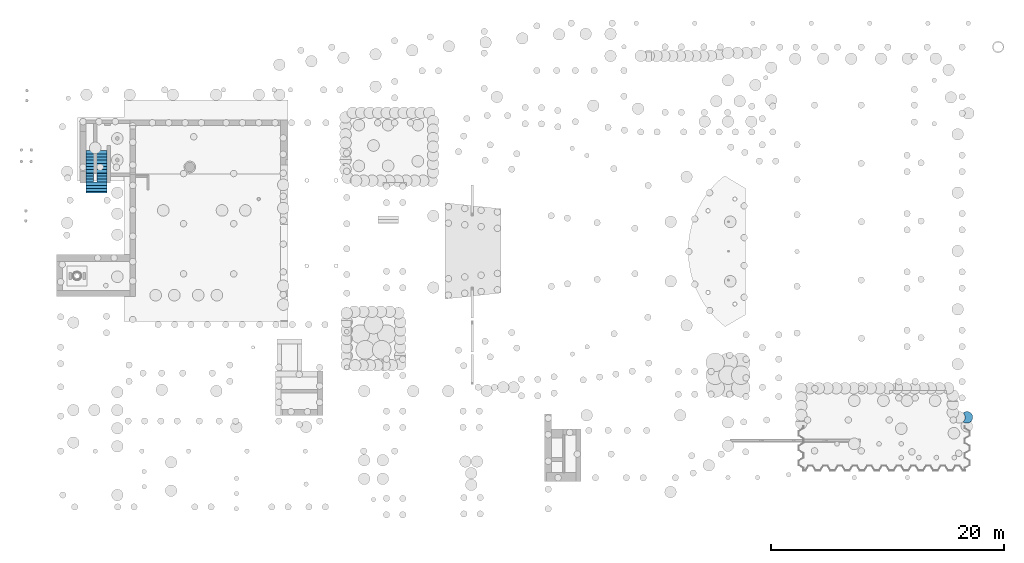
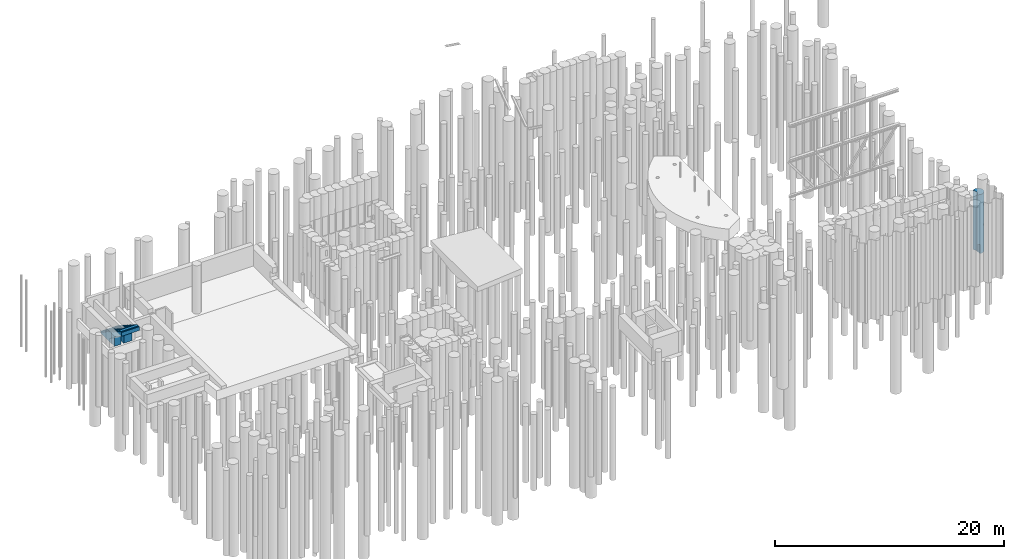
# One storey, part 102 of 104: 2 beams, 1 pile.
"""IFC2X3 building model written with IfcOpenShell, lengths in millimetres."""

from ifc_helpers import new_model, entity, si_unit, converted_unit, derived_unit, direction, frame, origin, place, context, subcontext, project, spatial, faceted_brep, source, transform, mapped, material, type_object, element, save


model = new_model("IFC2X3")

# Units and contexts
model_context = context("Model", 3, precision=0.01, world=origin(), true_north=direction((6.12303176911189e-17, 1.0)))
body_context = subcontext(model_context, "Body", "Model", "MODEL_VIEW")
ifc_project = project(units=[si_unit("LENGTHUNIT", "METRE", prefix="MILLI"), si_unit("AREAUNIT", "SQUARE_METRE", prefix="MILLI"), si_unit("VOLUMEUNIT", "CUBIC_METRE"), converted_unit("PLANEANGLEUNIT", "DEGREE", entity("IfcRatioMeasure", 0.0174532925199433), si_unit("PLANEANGLEUNIT", "RADIAN"), dimensions=[0, 0, 0, 0, 0, 0, 0]), si_unit("MASSUNIT", "GRAM", prefix="KILO"), derived_unit("MASSDENSITYUNIT", [(si_unit("MASSUNIT", "GRAM", prefix="KILO"), 1), (si_unit("LENGTHUNIT", "METRE"), -3)]), derived_unit("MOMENTOFINERTIAUNIT", [(si_unit("LENGTHUNIT", "METRE"), 4)]), si_unit("TIMEUNIT", "SECOND"), si_unit("FREQUENCYUNIT", "HERTZ"), si_unit("THERMODYNAMICTEMPERATUREUNIT", "DEGREE_CELSIUS"), derived_unit("THERMALTRANSMITTANCEUNIT", [(si_unit("MASSUNIT", "GRAM", prefix="KILO"), 1), (si_unit("THERMODYNAMICTEMPERATUREUNIT", "KELVIN"), -1), (si_unit("TIMEUNIT", "SECOND"), -3)]), derived_unit("VOLUMETRICFLOWRATEUNIT", [(si_unit("LENGTHUNIT", "METRE"), 3), (si_unit("TIMEUNIT", "SECOND"), -1)]), si_unit("ELECTRICCURRENTUNIT", "AMPERE"), si_unit("ELECTRICVOLTAGEUNIT", "VOLT"), si_unit("POWERUNIT", "WATT"), si_unit("FORCEUNIT", "NEWTON", prefix="KILO"), si_unit("ILLUMINANCEUNIT", "LUX"), si_unit("LUMINOUSFLUXUNIT", "LUMEN"), si_unit("LUMINOUSINTENSITYUNIT", "CANDELA"), derived_unit("USERDEFINED", [(si_unit("MASSUNIT", "GRAM", prefix="KILO"), -1), (si_unit("LENGTHUNIT", "METRE"), -2), (si_unit("TIMEUNIT", "SECOND"), 3), (si_unit("LUMINOUSFLUXUNIT", "LUMEN"), 1)]), derived_unit("LINEARVELOCITYUNIT", [(si_unit("LENGTHUNIT", "METRE"), 1), (si_unit("TIMEUNIT", "SECOND"), -1)]), si_unit("PRESSUREUNIT", "PASCAL"), derived_unit("USERDEFINED", [(si_unit("LENGTHUNIT", "METRE"), -2), (si_unit("MASSUNIT", "GRAM", prefix="KILO"), 1), (si_unit("TIMEUNIT", "SECOND"), -2)]), derived_unit("LINEARFORCEUNIT", [(si_unit("MASSUNIT", "GRAM", prefix="KILO"), 1), (si_unit("LENGTHUNIT", "METRE"), 1), (si_unit("TIMEUNIT", "SECOND"), -2), (si_unit("LENGTHUNIT", "METRE"), -1)]), derived_unit("PLANARFORCEUNIT", [(si_unit("MASSUNIT", "GRAM", prefix="KILO"), 1), (si_unit("LENGTHUNIT", "METRE"), 1), (si_unit("TIMEUNIT", "SECOND"), -2), (si_unit("LENGTHUNIT", "METRE"), -2)])], contexts=[model_context])

# Site, building, storey
site_placement = place(None, origin())
site = spatial("IfcSite", under=ifc_project, at=site_placement, Name="Theater aan de Parade", CompositionType="ELEMENT")
building_placement = place(site_placement, origin())
building = spatial("IfcBuilding", under=site, at=building_placement, Name="Theater aan de Parade", CompositionType="ELEMENT")
storey_placement = place(building_placement, frame((0.0, 0.0, -5520.0)))
storey = spatial("IfcBuildingStorey", under=building, at=storey_placement, Name="-2 kelder", CompositionType="ELEMENT", Elevation=-5520.0)

# Pile
ifc_material_1 = material(Name="00_PBT_MAT_grout")
shared_shape = source(origin(), body_context, "Body", "Brep", [
    faceted_brep([(156.039495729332, 643.472556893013, 0.0), (130.742825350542, 710.745926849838, 0.0), (96.0623260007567, 773.697422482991, 0.0), (52.7145838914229, 831.026307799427, 0.0), (1.5952722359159, 881.548024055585, 0.0), (62.8268818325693, 926.347016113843, 0.0), (130.132186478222, 961.365930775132, 0.0), (201.961260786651, 985.798188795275, 0.0), (276.660302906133, 999.081170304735, 0.0), (352.509414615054, 1000.90892586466, 0.0), (427.762187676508, 991.239224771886, 0.0), (500.685901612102, 970.294535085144, 0.0), (569.601408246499, 938.556912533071, 0.0), (632.921785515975, 896.756915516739, 0.0), (689.188871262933, 845.856800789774, 0.0), (737.106836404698, 787.028385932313, 0.0), (775.572024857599, 721.626087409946, 0.0), (803.698373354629, 651.155754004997, 0.0), (820.837748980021, 577.240514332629, 0.0), (826.595272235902, 501.580920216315, 0.0), (821.607228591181, 431.131200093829, 0.0), (806.744238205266, 362.092675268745, 0.0), (782.303283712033, 295.837856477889, 0.0), (748.772980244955, 233.689183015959, 0.0), (706.822916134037, 176.885772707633, 0.0), (657.278879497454, 126.554129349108, 0.0), (605.052831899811, 86.296213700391, 0.0), (547.973144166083, 53.2597877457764, 0.0), (487.043140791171, 28.0236570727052, 0.0), (423.321066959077, 11.0260092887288, 0.0), (357.913470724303, 2.56271369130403, 0.0), (291.960284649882, 2.78194504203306, 0.0), (226.595272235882, 11.6829716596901, 0.0), (226.595272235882, 386.409980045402, 0.0), (164.640094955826, 392.896740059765, 0.0), (173.594521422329, 446.884061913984, 0.0), (176.595272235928, 501.580920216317, 0.0), (171.429644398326, 573.267349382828, 0.0), (733.978275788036, 791.47588122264, 5321.88978165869), (714.265354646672, 817.352842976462, 4368.29536745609), (662.02221502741, 872.375696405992, 5250.57625182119), (826.595272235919, 501.580920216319, 6320.0), (826.595272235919, 501.580920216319, 4758.46227727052), (818.077818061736, 593.477096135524, 5159.72775007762), (714.265355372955, 817.352842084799, 1328.94772264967), (602.055613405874, 918.859724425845, 781.727377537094), (790.973879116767, 686.925220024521, 1328.94875546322), (362.985396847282, 1000.25492077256, 949.035976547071), (464.621895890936, 982.152092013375, 1032.1812764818), (114.435077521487, 954.33698232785, 3158.85548772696), (241.903788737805, 994.356074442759, 3029.35857653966), (165.582631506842, 974.946455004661, 2029.29597111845), (1.5952722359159, 881.548024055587, 1561.53817547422), (130.597395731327, 961.564433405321, 1043.84404677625), (689.188871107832, 845.856800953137, 6320.0), (737.106836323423, 787.02838604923, 6320.0), (504.145318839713, 968.995063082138, 2060.84563424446), (602.055612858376, 918.859724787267, 1637.7900695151), (685.98407925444, 849.200950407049, 3161.97757830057), (627.116908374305, 901.189161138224, 4204.38249285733), (569.601407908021, 938.556912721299, 6320.0), (632.921785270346, 896.756915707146, 6320.0), (130.132186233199, 961.365930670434, 6320.0), (201.961260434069, 985.798188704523, 6320.0), (165.582631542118, 974.946455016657, 4787.85921591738), (818.819460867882, 589.417974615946, 987.413339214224), (811.801872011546, 622.306044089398, 2494.59229240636), (826.595272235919, 501.580920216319, 1561.53772272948), (816.765458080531, 600.237845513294, 4222.60402828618), (816.423031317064, 601.924163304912, 3347.99838588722), (790.083849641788, 689.139813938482, 3597.85767238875), (83.4675496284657, 938.48927502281, 5346.72127604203), (1.5952722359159, 881.548024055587, 6320.0), (62.8268817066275, 926.347016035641, 6320.0), (375.79929865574, 999.153994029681, 3035.54785385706), (314.55013919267, 1001.43581393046, 4065.79783276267), (440.830649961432, 988.356308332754, 4041.30634709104), (615.867697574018, 909.40620626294, 2629.36155347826), (803.698373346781, 651.155754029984, 6320.0), (790.973878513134, 686.925221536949, 4876.27850064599), (775.572024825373, 721.626087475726, 6320.0), (535.746525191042, 955.734807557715, 4759.26326095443), (239.058470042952, 993.858594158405, 1104.63358147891), (757.581821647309, 755.057929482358, 2512.52163290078), (700.141824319, 833.940625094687, 2244.51098281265), (500.685901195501, 970.294535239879, 6320.0), (390.31947860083, 997.503520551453, 5111.8901709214), (427.762187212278, 991.239224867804, 6320.0), (1.5952722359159, 881.548024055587, 780.768482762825), (1.5952722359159, 881.548024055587, 4758.46182452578), (79.8177041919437, 936.43817485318, 4349.61557229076), (1.5952722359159, 881.548024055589, 3940.76674679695), (276.660302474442, 999.081170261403, 6320.0), (274.708432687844, 998.881388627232, 5066.37486074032), (154.496165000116, 971.029423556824, 3928.09796030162), (352.509414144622, 1000.90892588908, 6320.0), (820.837748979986, 577.24051433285, 6320.0), (79.5414317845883, 936.281276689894, 1779.68662215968), (1.5952722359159, 881.548024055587, 3123.07635094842), (272.26221545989, 998.620072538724, 2062.9280462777), (390.319478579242, 997.503520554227, 1868.94547345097), (745.494233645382, 774.571140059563, 3397.03746860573), (535.746524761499, 955.734807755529, 3160.0), (826.595272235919, 501.580920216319, 3196.92455454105), (1.5952722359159, 881.548024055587, 5539.23151723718), (826.595272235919, 501.580920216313, 3940.76885296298), (826.595272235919, 501.580920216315, 3123.07541185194), (826.595272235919, 501.580920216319, 2379.23113863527), (826.595272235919, 501.580920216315, 2342.30655888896), (264.109004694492, 5.50081945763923, 2170.58000472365), (135.949554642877, 39.3534758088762, 2162.86006177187), (226.595272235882, 11.6829716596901, 1000.0), (52.1535872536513, 83.6314477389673, 1000.0), (1.5952722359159, 121.613816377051, 2561.53770734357), (1.5952722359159, 121.613816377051, 1000.0), (165.560571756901, 28.2228895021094, 1000.0), (603.331068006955, 85.1468926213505, 5302.13115563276), (505.132425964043, 34.54292953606, 5252.60487059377), (569.878928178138, 64.7593745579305, 4349.55194482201), (294.649115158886, 2.60252083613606, 5290.30096014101), (399.677359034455, 6.95074666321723, 5350.60642547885), (330.383650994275, 1.5952722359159, 6320.0), (818.901991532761, 414.207616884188, 4477.97238112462), (818.603047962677, 412.539645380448, 5332.17323977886), (795.695103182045, 328.533676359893, 4728.86574441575), (486.404881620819, 27.8078851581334, 1189.40214380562), (577.058275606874, 68.835863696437, 1035.26793209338), (390.756965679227, 5.7147315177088, 1404.46766360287), (59.0810797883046, 79.163878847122, 6320.0), (1.5952722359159, 121.613816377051, 6320.0), (1.5952722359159, 121.613816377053, 5539.2311463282), (534.158752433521, 46.6991754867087, 1989.18109727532), (631.841153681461, 105.569617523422, 1927.38126748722), (761.588127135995, 255.042452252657, 5366.34173193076), (806.744109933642, 362.092233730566, 6320.0), (782.303867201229, 295.839148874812, 6320.0), (471.000397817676, 22.8877411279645, 4320.82081372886), (662.279700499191, 131.019232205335, 1027.23310858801), (728.801990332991, 204.545979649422, 1359.54955543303), (107.101655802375, 52.3342704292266, 1000.0), (86.1225241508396, 63.2056729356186, 5410.14418044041), (70.8155848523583, 71.9569549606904, 4538.19278078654), (155.149914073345, 31.8932695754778, 4758.15091330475), (254.238548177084, 6.84411697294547, 4323.68426699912), (366.098350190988, 3.1438561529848, 4432.13717283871), (189.149619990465, 20.8432654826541, 6320.0), (122.026693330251, 45.3444721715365, 6320.0), (455.462658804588, 18.473068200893, 2707.04232699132), (590.949035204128, 77.1788844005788, 3105.66659180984), (657.189174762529, 126.470707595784, 3885.15908095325), (669.721786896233, 137.899473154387, 2973.48119293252), (195.816180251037, 18.9870649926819, 3211.04271846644), (401.611119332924, 7.24032641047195, 6320.0), (471.306182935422, 22.980092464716, 6320.0), (80.9971688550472, 66.0564414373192, 3386.65879960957), (781.283696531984, 293.59429369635, 997.835971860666), (815.39613720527, 396.349202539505, 1048.56710681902), (682.954485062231, 150.855797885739, 4925.82980763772), (746.379743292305, 229.95434224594, 4423.405187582), (795.69493738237, 328.53322690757, 1933.53305988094), (797.063672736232, 332.289797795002, 3393.8299185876), (600.468215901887, 83.2585436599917, 6320.0), (657.302677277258, 126.570770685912, 6320.0), (729.60989798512, 205.64306959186, 2380.90650031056), (328.216594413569, 1.5835489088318, 3251.09562179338), (728.805395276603, 204.550590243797, 3402.26408938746), (259.077884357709, 6.16049034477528, 6320.0), (538.046048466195, 48.4931039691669, 6320.0), (821.606945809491, 431.129213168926, 6320.0), (706.827664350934, 176.891333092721, 6320.0), (748.775204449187, 233.692688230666, 6320.0), (819.679816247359, 418.709740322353, 1951.92213225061), (364.672505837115, 3.03290419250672, 2309.11850851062), (420.640854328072, 10.5051333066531, 3550.95353316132), (514.180858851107, 38.1031454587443, 3527.68617057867), (1.5952722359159, 121.613816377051, 4123.07541468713), (52.7145838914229, 831.026307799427, 6320.0), (96.0623260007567, 773.697422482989, 6320.0), (130.742825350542, 710.745926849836, 6320.0), (156.03949572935, 643.472556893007, 6320.0), (171.429644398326, 573.267349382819, 6320.0), (176.595272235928, 501.580920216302, 6320.0), (171.429644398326, 429.894491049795, 6320.0), (156.039495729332, 359.689283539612, 6320.0), (130.742825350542, 292.415913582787, 6320.0), (96.0623260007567, 229.464417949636, 6320.0), (52.7145838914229, 172.135532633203, 6320.0), (61.3312055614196, 820.921274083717, 1171.15327843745), (114.535156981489, 742.845624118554, 1073.30167186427), (163.748921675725, 614.192295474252, 3414.93870649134), (125.571563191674, 721.627029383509, 3146.38498575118), (144.601498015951, 677.564364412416, 1981.21457974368), (156.990671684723, 640.218073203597, 1023.36917436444), (157.492352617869, 638.46772776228, 5280.70692250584), (114.535156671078, 742.845624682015, 5234.20447250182), (144.601497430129, 677.564365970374, 4311.55539985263), (81.2852326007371, 795.223621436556, 2183.14983071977), (176.595272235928, 501.58092021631, 4721.53772293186), (176.595272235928, 501.580920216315, 1561.53772293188), (176.595272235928, 501.58092021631, 4758.46229405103), (176.595272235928, 501.580920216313, 5539.23114702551), (61.2830596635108, 820.97927056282, 5148.84671475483), (176.595272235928, 501.580920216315, 2342.30658439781), (176.595272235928, 501.58092021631, 3123.07544586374), (80.9860879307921, 795.63545288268, 4124.11319011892), (168.365873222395, 591.922914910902, 4550.73055914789), (71.7798184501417, 807.896402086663, 3108.33119845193), (169.399890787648, 586.100787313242, 1951.92213097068), (176.595272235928, 501.580920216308, 1580.0), (176.595272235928, 501.58092021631, 3160.0), (95.0654442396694, 227.933857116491, 3809.85877705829), (61.1704466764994, 182.046985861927, 4523.91489147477), (114.535157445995, 260.316217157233, 4624.93892453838), (47.7140962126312, 166.512541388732, 1000.0), (156.63265228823, 361.709144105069, 2014.73185022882), (146.634426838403, 331.101616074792, 1000.0), (120.839567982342, 272.131566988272, 1000.0), (105.149909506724, 244.013603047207, 2014.73185030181), (75.419878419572, 200.020091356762, 5375.81494111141), (144.60149860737, 325.597477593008, 5375.81494119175), (87.6829744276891, 216.963807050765, 1000.0), (75.6783931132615, 200.362290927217, 2979.79847285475), (161.514451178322, 379.70643603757, 4250.66175212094), (164.640094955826, 392.896740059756, 1000.0), (169.115171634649, 415.41742042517, 5148.84672054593), (134.686882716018, 301.201089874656, 2890.50480247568), (166.385687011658, 401.055552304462, 2904.38346815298), (226.595272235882, 386.409980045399, 1000.0)], [[[0, 1, 2, 3, 4, 5, 6, 7, 8, 9, 10, 11, 12, 13, 14, 15, 16, 17, 18, 19, 20, 21, 22, 23, 24, 25, 26, 27, 28, 29, 30, 31, 32, 33, 34, 35, 36, 37]], [[38, 39, 40]], [[41, 42, 43]], [[15, 44, 16]], [[45, 44, 14]], [[16, 44, 46]], [[47, 10, 9]], [[48, 45, 11]], [[49, 50, 51]], [[12, 45, 13]], [[52, 53, 5]], [[38, 54, 55]], [[48, 56, 57]], [[39, 58, 59]], [[60, 61, 40]], [[62, 63, 64]], [[65, 66, 67]], [[38, 40, 54]], [[68, 69, 70]], [[17, 46, 65]], [[71, 72, 73]], [[74, 75, 76]], [[42, 68, 43]], [[77, 59, 58]], [[48, 11, 10]], [[78, 79, 80]], [[81, 40, 59]], [[38, 80, 79]], [[70, 39, 79]], [[61, 54, 40]], [[74, 50, 75]], [[53, 82, 7]], [[83, 84, 58]], [[47, 48, 10]], [[47, 8, 82]], [[44, 15, 14]], [[85, 86, 87]], [[51, 82, 53]], [[66, 70, 69]], [[5, 4, 88, 52]], [[17, 65, 18]], [[8, 7, 82]], [[66, 46, 83]], [[45, 14, 13]], [[89, 90, 91]], [[92, 93, 63]], [[75, 64, 93]], [[19, 18, 65]], [[81, 86, 85]], [[7, 6, 53]], [[16, 46, 17]], [[50, 94, 75]], [[87, 86, 95]], [[43, 78, 96]], [[86, 93, 95]], [[75, 93, 86]], [[64, 90, 71]], [[71, 62, 64]], [[86, 76, 75]], [[97, 98, 49]], [[85, 60, 81]], [[76, 86, 81]], [[83, 46, 44]], [[99, 51, 50]], [[47, 100, 48]], [[59, 40, 39]], [[60, 40, 81]], [[56, 48, 100]], [[48, 57, 45]], [[45, 12, 11]], [[44, 45, 57]], [[70, 83, 101]], [[102, 81, 59]], [[84, 83, 44]], [[77, 57, 56]], [[74, 56, 100]], [[77, 56, 102]], [[70, 66, 83]], [[69, 103, 66]], [[83, 58, 101]], [[70, 79, 68]], [[81, 102, 76]], [[102, 56, 74]], [[102, 74, 76]], [[82, 51, 99]], [[99, 74, 100]], [[49, 51, 97]], [[71, 89, 104, 72]], [[94, 49, 90]], [[5, 53, 6]], [[97, 51, 53]], [[80, 38, 55]], [[79, 39, 38]], [[8, 47, 9]], [[99, 47, 82]], [[74, 99, 50]], [[47, 99, 100]], [[53, 52, 97]], [[97, 52, 98]], [[63, 93, 64]], [[95, 93, 92]], [[43, 68, 79]], [[68, 42, 105, 103]], [[78, 43, 79]], [[41, 43, 96]], [[68, 103, 69]], [[66, 103, 106, 107, 108, 67]], [[49, 98, 91]], [[94, 90, 64]], [[49, 91, 90]], [[89, 71, 90]], [[62, 71, 73]], [[75, 94, 64]], [[50, 49, 94]], [[66, 65, 46]], [[19, 65, 67]], [[44, 57, 84]], [[77, 84, 57]], [[59, 77, 102]], [[84, 77, 58]], [[58, 39, 101]], [[39, 70, 101]], [[109, 110, 111]], [[112, 113, 114]], [[111, 110, 115]], [[116, 117, 118]], [[119, 120, 121]], [[122, 123, 124]], [[125, 27, 126]], [[112, 110, 113]], [[30, 127, 31]], [[128, 129, 130]], [[126, 131, 125]], [[29, 28, 125]], [[31, 111, 32]], [[131, 126, 132]], [[133, 134, 135]], [[127, 30, 29]], [[26, 126, 27]], [[117, 120, 136]], [[132, 137, 138]], [[112, 139, 110]], [[130, 140, 128]], [[134, 133, 123]], [[117, 136, 118]], [[140, 141, 142]], [[143, 144, 119]], [[145, 146, 140]], [[147, 131, 148]], [[131, 127, 125]], [[119, 144, 120]], [[149, 148, 150]], [[119, 145, 142]], [[151, 110, 109]], [[121, 120, 152]], [[120, 153, 152]], [[24, 23, 138]], [[148, 149, 118]], [[138, 137, 24]], [[154, 110, 151]], [[155, 21, 156]], [[157, 149, 158]], [[155, 156, 159]], [[160, 122, 124]], [[161, 116, 162]], [[155, 23, 22]], [[31, 127, 111]], [[163, 150, 132]], [[22, 21, 155]], [[143, 164, 144]], [[150, 163, 165]], [[123, 122, 42]], [[119, 121, 166]], [[153, 117, 167]], [[67, 156, 19]], [[117, 116, 167]], [[116, 161, 167]], [[164, 151, 109]], [[139, 115, 110]], [[126, 137, 132]], [[41, 168, 123]], [[158, 133, 157]], [[142, 141, 154]], [[146, 128, 140]], [[20, 156, 21]], [[151, 142, 154]], [[133, 169, 157]], [[160, 158, 165]], [[133, 135, 170]], [[26, 25, 137]], [[106, 160, 171]], [[157, 169, 162]], [[145, 119, 166]], [[143, 119, 142]], [[19, 156, 20]], [[156, 67, 171]], [[111, 127, 109]], [[172, 109, 127]], [[172, 164, 109]], [[173, 164, 147]], [[148, 131, 132]], [[127, 131, 147]], [[149, 150, 165]], [[118, 136, 174]], [[142, 151, 143]], [[164, 143, 151]], [[141, 130, 175]], [[140, 142, 145]], [[130, 141, 140]], [[141, 175, 154]], [[175, 113, 154]], [[110, 154, 113]], [[118, 157, 116]], [[162, 116, 157]], [[159, 138, 155]], [[23, 155, 138]], [[26, 137, 126]], [[24, 137, 25]], [[136, 120, 144]], [[153, 120, 117]], [[173, 144, 164]], [[136, 173, 174]], [[29, 125, 127]], [[27, 125, 28]], [[158, 149, 165]], [[157, 118, 149]], [[148, 132, 150]], [[163, 132, 138]], [[138, 159, 163]], [[160, 163, 159]], [[41, 123, 42]], [[134, 123, 168]], [[158, 160, 124]], [[160, 105, 122]], [[163, 160, 165]], [[171, 67, 108, 107, 106]], [[160, 106, 103, 105]], [[105, 42, 122]], [[133, 158, 124]], [[124, 123, 133]], [[133, 170, 169]], [[160, 159, 171]], [[156, 171, 159]], [[127, 147, 172]], [[164, 172, 147]], [[174, 147, 148]], [[144, 173, 136]], [[147, 174, 173]], [[118, 174, 148]], [[85, 87, 95, 92, 63, 62, 73, 72, 176, 177, 178, 179, 180, 181, 182, 183, 184, 185, 186, 129, 128, 146, 145, 166, 121, 152, 153, 167, 161, 162, 169, 170, 135, 134, 168, 41, 96, 78, 80, 55, 54, 61, 60]], [[3, 2, 187]], [[2, 1, 188]], [[189, 190, 191]], [[1, 192, 188]], [[193, 194, 195]], [[192, 1, 0]], [[192, 191, 188]], [[196, 188, 191]], [[197, 180, 193]], [[196, 191, 190]], [[88, 3, 187]], [[198, 37, 36]], [[180, 197, 199, 200, 181]], [[89, 201, 104]], [[202, 203, 189]], [[177, 194, 178]], [[201, 177, 176]], [[192, 0, 37]], [[188, 196, 187]], [[193, 178, 194]], [[178, 193, 179]], [[104, 176, 72]], [[88, 4, 3]], [[195, 194, 204]], [[194, 177, 201]], [[189, 203, 205]], [[196, 98, 52]], [[206, 190, 204]], [[190, 195, 204]], [[204, 91, 206]], [[206, 196, 190]], [[195, 190, 189]], [[179, 193, 180]], [[193, 195, 205]], [[207, 191, 192]], [[198, 192, 37]], [[205, 195, 189]], [[207, 198, 208, 202]], [[189, 207, 202]], [[198, 207, 192]], [[191, 207, 189]], [[205, 197, 193]], [[205, 203, 209, 197]], [[52, 88, 187]], [[52, 187, 196]], [[2, 188, 187]], [[89, 204, 201]], [[104, 201, 176]], [[194, 201, 204]], [[206, 98, 196]], [[204, 89, 91]], [[91, 98, 206]], [[210, 211, 212]], [[113, 213, 114]], [[214, 215, 216, 217]], [[212, 218, 219]], [[217, 216, 220]], [[184, 183, 219]], [[217, 220, 213]], [[221, 217, 113]], [[182, 181, 200]], [[219, 218, 185, 184]], [[222, 199, 197, 209]], [[214, 223, 215]], [[219, 183, 224]], [[35, 34, 223]], [[214, 225, 226]], [[223, 36, 35]], [[113, 217, 213]], [[130, 129, 186]], [[211, 218, 212]], [[214, 217, 225]], [[226, 209, 203, 202, 208]], [[185, 218, 186]], [[224, 200, 199]], [[214, 208, 223]], [[225, 217, 221]], [[223, 208, 198, 36]], [[212, 219, 222]], [[224, 183, 182]], [[218, 130, 186]], [[175, 130, 211]], [[212, 222, 210]], [[226, 225, 222]], [[210, 222, 225]], [[221, 113, 175]], [[214, 226, 208]], [[209, 226, 222]], [[218, 211, 130]], [[221, 175, 210]], [[211, 210, 175]], [[221, 210, 225]], [[199, 222, 224]], [[200, 224, 182]], [[219, 224, 222]], [[111, 115, 139, 112, 114, 213, 220, 216, 215, 223, 227]], [[227, 223, 34, 33]], [[227, 33, 32, 111]]]),
])
pile_placement = place(storey_placement, frame((87673.4047277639, 17702.3950989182, -3840.0)))
element("IfcPile", 1, at=pile_placement, inside=storey, material=ifc_material_1, Name="17_PBT_SFO_grondkering_rond:Ø1000 (grondkering)", ObjectType="17_PBT_SFO_grondkering_rond:Ø1000 (grondkering)", PredefinedType="NOTDEFINED", context=body_context, shape_type="MappedRepresentation", body=[
    mapped(shared_shape, transform((0.0, 0.0, 0.0), scale=1.0)),
])

# Beams
ifc_material_2 = material(Name="00_PBT_MAT_beton t.p.g.")
beam_type_1 = type_object("IfcBeamType", Name="28_PBT_SF_betontrap kelder A_B_15_behouden:betontrap_bestaand", PredefinedType="NOTDEFINED")
beam_1_placement = place(storey_placement, frame((12510.0, 37416.6178623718, -40.0)))
element("IfcBeam", 2, at=beam_1_placement, inside=storey, type_object=beam_type_1, material=ifc_material_2, Name="28_PBT_SF_betontrap kelder A_B_15_behouden:betontrap_bestaand", ObjectType="28_PBT_SF_betontrap kelder A_B_15_behouden:betontrap_bestaand", context=body_context, shape_type="Brep", body=[
    faceted_brep([(0.0, 353.382137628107, 2069.25000000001), (0.0, 668.382137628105, 2069.25000000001), (0.0, 623.382137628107, 1898.50000000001), (0.0, 938.382137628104, 1898.50000000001), (0.0, 917.693997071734, 1820.0), (0.0, 893.382137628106, 1727.75000000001), (0.0, 1208.3821376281, 1727.75000000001), (0.0, 1163.38213762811, 1557.0), (0.0, 1478.38213762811, 1557.0), (0.0, 1433.3821376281, 1386.25000000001), (0.0, 1703.3821376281, 1386.25000000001), (0.0, 1703.3821376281, 1215.50000000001), (0.0, 1703.3821376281, 0.0), (0.0, 1233.38213762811, 0.0), (0.0, 1233.38213762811, 1040.0), (0.0, 0.0, 1820.0), (0.0, 0.0, 2220.0), (0.0, 128.382137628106, 2220.0), (0.0, 128.382137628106, 2240.0), (0.0, 398.382137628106, 2240.0), (0.0, 393.111273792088, 2220.0), (1800.0, 1233.3821376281, 0.0), (1800.0, 1703.38213762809, 0.0), (1800.0, 1703.38213762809, 1215.50000000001), (1800.0, 1703.38213762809, 1386.25000000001), (1800.0, 1433.3821376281, 1386.25000000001), (1800.0, 1478.3821376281, 1557.0), (1800.0, 1163.3821376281, 1557.0), (1800.0, 1208.38213762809, 1727.75000000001), (1800.0, 893.382137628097, 1727.75000000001), (1800.0, 917.693997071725, 1820.0), (1800.0, 938.382137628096, 1898.50000000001), (1800.0, 623.382137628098, 1898.50000000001), (1800.0, 668.382137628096, 2069.25000000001), (1800.0, 353.382137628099, 2069.25000000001), (1800.0, 393.11127379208, 2220.0), (1800.0, 398.382137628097, 2240.0), (1800.0, 128.382137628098, 2240.0), (1800.0, 128.382137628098, 2220.0), (1800.0, 0.0, 2220.0), (1800.0, 0.0, 1820.0), (1800.0, 1233.3821376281, 1040.0), (644.857002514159, 1703.3821376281, 0.0), (644.857002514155, 1533.3821376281, 0.0), (644.857002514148, 1233.3821376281, 0.0), (644.857002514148, 1233.3821376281, 1040.0), (944.857002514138, 893.382137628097, 1727.75000000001), (944.857002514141, 917.69399707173, 1820.0), (644.857002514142, 917.69399707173, 1820.0), (644.85700251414, 893.382137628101, 1727.75000000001), (644.857002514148, 1208.3821376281, 1727.75000000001), (644.857002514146, 1163.3821376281, 1557.0), (644.857002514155, 1478.3821376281, 1557.0), (644.857002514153, 1433.3821376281, 1386.25000000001), (644.857002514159, 1703.3821376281, 1386.25000000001), (644.857002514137, 733.382137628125, 1356.2037037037), (944.857002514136, 733.382137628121, 1356.20370370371), (944.857002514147, 1233.3821376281, 1040.0), (644.857002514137, 733.382137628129, 1820.0), (944.857002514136, 733.382137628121, 1820.0), (944.857002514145, 1208.3821376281, 1727.75000000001), (944.857002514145, 1163.3821376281, 1557.0), (944.857002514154, 1478.3821376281, 1557.0), (944.857002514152, 1433.3821376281, 1386.25000000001), (944.857002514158, 1703.38213762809, 1386.25000000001), (944.857002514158, 1703.38213762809, 0.0), (944.857002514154, 1533.3821376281, 0.0), (944.857002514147, 1233.3821376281, 0.0)], [[[0, 1, 2, 3, 4, 5, 6, 7, 8, 9, 10, 11, 12, 13, 14, 15, 16, 17, 18, 19, 20]], [[21, 22, 23, 24, 25, 26, 27, 28, 29, 30, 31, 32, 33, 34, 35, 36, 37, 38, 39, 40, 41]], [[13, 12, 42, 43, 44]], [[14, 13, 44, 45]], [[18, 17, 38, 37]], [[19, 18, 37, 36]], [[19, 36, 35, 34, 0, 20]], [[1, 0, 34, 33]], [[2, 1, 33, 32]], [[32, 31, 3, 2]], [[3, 31, 30, 29, 46, 47, 48, 49, 5, 4]], [[6, 5, 49, 50]], [[7, 6, 50, 51]], [[8, 7, 51, 52]], [[9, 8, 52, 53]], [[10, 9, 53, 54]], [[15, 14, 45, 55, 56, 57, 41, 40]], [[16, 15, 40, 39]], [[17, 16, 39, 38]], [[12, 11, 10, 54, 42]], [[48, 58, 55, 45, 44, 43, 42, 54, 53, 52, 51, 50, 49]], [[56, 59, 47, 46, 60, 61, 62, 63, 64, 65, 66, 67, 57]], [[22, 21, 67, 66, 65]], [[21, 41, 57, 67]], [[28, 27, 61, 60]], [[27, 26, 62, 61]], [[26, 25, 63, 62]], [[25, 24, 64, 63]], [[24, 23, 22, 65, 64]], [[29, 28, 60, 46]], [[58, 59, 56, 55]], [[59, 58, 48, 47]]]),
])
beam_type_2 = type_object("IfcBeamType", Name="28_PBT_SF_betontrap kelder A_B_15:betontrap_bestaand", PredefinedType="NOTDEFINED")
beam_2_placement = place(storey_placement, frame((12510.0, 39120.0, -40.0)))
element("IfcBeam", 3, at=beam_2_placement, inside=storey, type_object=beam_type_2, material=ifc_material_2, Name="28_PBT_SF_betontrap kelder A_B_15:betontrap_bestaand", ObjectType="28_PBT_SF_betontrap kelder A_B_15:betontrap_bestaand", context=body_context, shape_type="Brep", body=[
    faceted_brep([(0.0, 0.0, 1215.50000000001), (0.0, 315.0, 1215.50000000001), (0.0, 270.0, 1044.75000000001), (0.0, 585.0, 1044.75000000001), (0.0, 540.0, 874.0), (0.0, 855.0, 874.0), (0.0, 810.0, 703.250000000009), (0.0, 1125.0, 703.250000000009), (0.0, 1080.0, 532.500000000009), (0.0, 1395.0, 532.500000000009), (0.0, 1350.0, 361.750000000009), (0.0, 1665.0, 361.750000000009), (0.0, 1620.0, 191.0), (0.0, 1935.0, 191.0), (0.0, 1884.66325036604, 0.0), (0.0, 150.0, 0.0), (0.0, 0.0, 0.0), (1800.0, 0.0, 1215.50000000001), (1800.0, 45.0, 1386.25000000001), (1800.0, 0.0, 1386.25000000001), (644.857002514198, 1884.66325036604, 0.0), (944.857002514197, 1884.66325036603, 0.0), (1800.0, 1884.66325036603, 0.0), (1800.0, 0.0, 0.0), (944.857002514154, 0.0, 0.0), (644.857002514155, 0.0, 0.0), (944.857002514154, 45.0, 1386.25000000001), (644.857002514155, 45.0, 1386.25000000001), (0.0, 45.0, 1386.25000000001), (0.0, 0.0, 1386.25000000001), (644.857002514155, 0.0, 1386.25000000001), (944.857002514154, 0.0, 1386.25000000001), (944.857002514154, 0.0, 1215.50000000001), (644.857002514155, 0.0, 1215.50000000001), (1800.0, 315.0, 1215.50000000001), (944.85700251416, 315.0, 1215.50000000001), (644.857002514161, 315.0, 1215.50000000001), (1800.0, 270.0, 1044.75000000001), (944.85700251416, 270.0, 1044.75000000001), (644.857002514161, 270.0, 1044.75000000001), (1800.0, 585.0, 1044.75000000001), (944.857002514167, 585.0, 1044.75000000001), (644.857002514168, 585.0, 1044.75000000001), (1800.0, 540.0, 874.0), (944.857002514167, 540.0, 874.0), (644.857002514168, 540.0, 874.0), (1800.0, 855.0, 874.0), (944.857002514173, 855.0, 874.0), (644.857002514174, 855.0, 874.0), (1800.0, 810.0, 703.250000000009), (944.857002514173, 810.0, 703.250000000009), (644.857002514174, 810.0, 703.250000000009), (1800.0, 1125.0, 703.250000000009), (944.85700251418, 1125.0, 703.250000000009), (644.857002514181, 1125.0, 703.250000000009), (1800.0, 1080.0, 532.500000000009), (944.857002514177, 1080.0, 532.500000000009), (644.857002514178, 1080.0, 532.500000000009), (1800.0, 1395.0, 532.500000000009), (944.857002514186, 1395.0, 532.500000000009), (644.857002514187, 1395.0, 532.500000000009), (1800.0, 1350.0, 361.750000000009), (944.857002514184, 1350.0, 361.750000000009), (644.857002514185, 1350.0, 361.750000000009), (1800.0, 1665.0, 361.750000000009), (944.857002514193, 1665.0, 361.750000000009), (644.857002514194, 1665.0, 361.750000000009), (1800.0, 1620.0, 191.0), (944.85700251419, 1620.0, 191.0), (644.857002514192, 1620.0, 191.0), (1800.0, 1935.0, 191.0), (944.857002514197, 1935.0, 191.0), (644.857002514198, 1935.0, 191.0)], [[[0, 1, 2, 3, 4, 5, 6, 7, 8, 9, 10, 11, 12, 13, 14, 15, 16]], [[17, 18, 19]], [[14, 20, 21, 22, 23, 24, 25, 16, 15]], [[18, 26, 27, 28, 29, 30, 31, 19]], [[0, 28, 27, 26, 18, 17, 32, 33]], [[1, 0, 33, 32, 17, 34, 35, 36]], [[2, 1, 36, 35, 34, 37, 38, 39]], [[3, 2, 39, 38, 37, 40, 41, 42]], [[4, 3, 42, 41, 40, 43, 44, 45]], [[5, 4, 45, 44, 43, 46, 47, 48]], [[6, 5, 48, 47, 46, 49, 50, 51]], [[7, 6, 51, 50, 49, 52, 53, 54]], [[8, 7, 54, 53, 52, 55, 56, 57]], [[9, 8, 57, 56, 55, 58, 59, 60]], [[10, 9, 60, 59, 58, 61, 62, 63]], [[11, 10, 63, 62, 61, 64, 65, 66]], [[12, 11, 66, 65, 64, 67, 68, 69]], [[13, 12, 69, 68, 67, 70, 71, 72]], [[14, 13, 72, 71, 70, 22, 21, 20]], [[29, 0, 16, 25, 24, 23, 17, 19, 31, 30]], [[28, 0, 29]], [[22, 70, 67, 64, 61, 58, 55, 52, 49, 46, 43, 40, 37, 34, 17, 23]]]),
])

save(model, "model.ifc")
